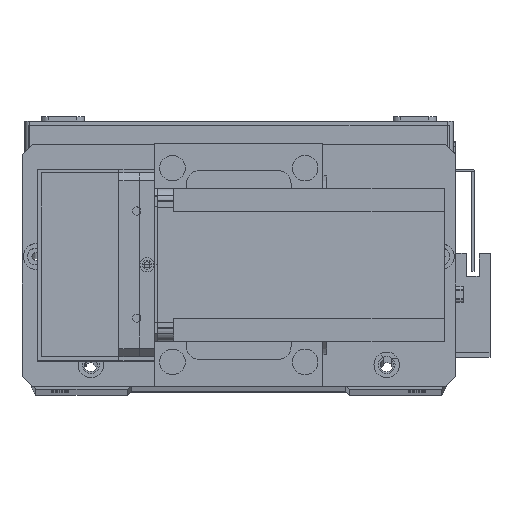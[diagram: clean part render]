
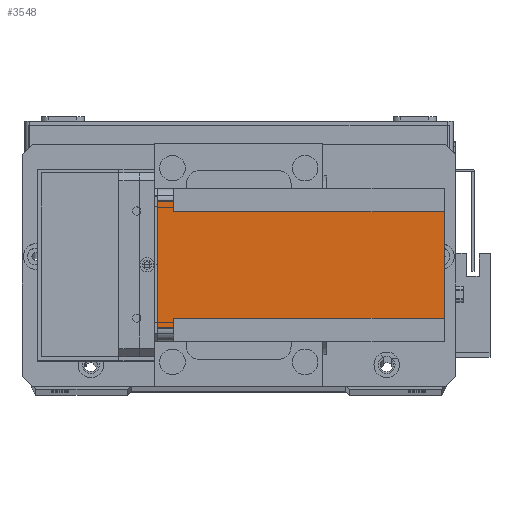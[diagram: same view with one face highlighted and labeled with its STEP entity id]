
A CAD part, top view. The second image highlights one B-rep face of the part: STEP entity #3548.
In plain terms, the highlighted planar face has unit normal (0, 0, 1) as drawn and (-1, 0, 0) by its records, which use the part's own axes.
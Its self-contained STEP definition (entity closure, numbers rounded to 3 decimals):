
#419 = VERTEX_POINT ( 'NONE', #9115 ) ;
#550 = EDGE_CURVE ( 'NONE', #18551, #19469, #27797, .T. ) ;
#590 = LINE ( 'NONE', #28616, #13878 ) ;
#2037 = DIRECTION ( 'NONE',  ( -1., 0., 0. ) ) ;
#2389 = VECTOR ( 'NONE', #31801, 1000. ) ;
#2557 = CARTESIAN_POINT ( 'NONE',  ( 0., 5., 0. ) ) ;
#2616 = VERTEX_POINT ( 'NONE', #22848 ) ;
#3138 = EDGE_CURVE ( 'NONE', #419, #19469, #9609, .T. ) ;
#3211 = VERTEX_POINT ( 'NONE', #25212 ) ;
#3548 = ADVANCED_FACE ( 'NONE', ( #5290 ), #6945, .T. ) ;
#4253 = EDGE_LOOP ( 'NONE', ( #16872, #21823, #15838, #29921, #21053, #5664, #26636, #10445 ) ) ;
#5130 = VERTEX_POINT ( 'NONE', #19239 ) ;
#5290 = FACE_OUTER_BOUND ( 'NONE', #4253, .T. ) ;
#5664 = ORIENTED_EDGE ( 'NONE', *, *, #10490, .F. ) ;
#6945 = PLANE ( 'NONE',  #7135 ) ;
#7135 = AXIS2_PLACEMENT_3D ( 'NONE', #21935, #2037, #19525 ) ;
#8114 = CARTESIAN_POINT ( 'NONE',  ( 0., 9., -112.5 ) ) ;
#8129 = CARTESIAN_POINT ( 'NONE',  ( 0., 60., -6.5 ) ) ;
#9044 = LINE ( 'NONE', #14318, #2389 ) ;
#9115 = CARTESIAN_POINT ( 'NONE',  ( 0., 5., -6.5 ) ) ;
#9181 = EDGE_CURVE ( 'NONE', #419, #21614, #9044, .T. ) ;
#9609 = LINE ( 'NONE', #27524, #22145 ) ;
#10445 = ORIENTED_EDGE ( 'NONE', *, *, #10775, .F. ) ;
#10490 = EDGE_CURVE ( 'NONE', #5130, #21014, #18756, .T. ) ;
#10775 = EDGE_CURVE ( 'NONE', #21614, #2616, #13261, .T. ) ;
#11125 = CARTESIAN_POINT ( 'NONE',  ( 0., 51., -6.5 ) ) ;
#11689 = VECTOR ( 'NONE', #23087, 1000. ) ;
#12089 = VECTOR ( 'NONE', #31623, 1000. ) ;
#12210 = DIRECTION ( 'NONE',  ( 0., -1., 0. ) ) ;
#12521 = DIRECTION ( 'NONE',  ( 0., 0., 1. ) ) ;
#13261 = LINE ( 'NONE', #8114, #11689 ) ;
#13878 = VECTOR ( 'NONE', #23669, 1000. ) ;
#14318 = CARTESIAN_POINT ( 'NONE',  ( 0., 0., -6.5 ) ) ;
#15838 = ORIENTED_EDGE ( 'NONE', *, *, #550, .F. ) ;
#16872 = ORIENTED_EDGE ( 'NONE', *, *, #9181, .F. ) ;
#17800 = LINE ( 'NONE', #8129, #30331 ) ;
#17841 = EDGE_CURVE ( 'NONE', #18551, #3211, #590, .T. ) ;
#18551 = VERTEX_POINT ( 'NONE', #26791 ) ;
#18756 = LINE ( 'NONE', #19162, #12089 ) ;
#18967 = DIRECTION ( 'NONE',  ( 0., -1., 0. ) ) ;
#19162 = CARTESIAN_POINT ( 'NONE',  ( 0., 51., -112.5 ) ) ;
#19239 = CARTESIAN_POINT ( 'NONE',  ( 0., 51., -112.5 ) ) ;
#19469 = VERTEX_POINT ( 'NONE', #2557 ) ;
#19525 = DIRECTION ( 'NONE',  ( 0., -1., 0. ) ) ;
#21014 = VERTEX_POINT ( 'NONE', #11125 ) ;
#21053 = ORIENTED_EDGE ( 'NONE', *, *, #29948, .F. ) ;
#21131 = VECTOR ( 'NONE', #18967, 1000. ) ;
#21614 = VERTEX_POINT ( 'NONE', #29044 ) ;
#21823 = ORIENTED_EDGE ( 'NONE', *, *, #3138, .T. ) ;
#21935 = CARTESIAN_POINT ( 'NONE',  ( 0., 0., -112.5 ) ) ;
#22145 = VECTOR ( 'NONE', #12521, 1000. ) ;
#22186 = CARTESIAN_POINT ( 'NONE',  ( 0., 0., -112.5 ) ) ;
#22848 = CARTESIAN_POINT ( 'NONE',  ( 0., 9., -112.5 ) ) ;
#23087 = DIRECTION ( 'NONE',  ( 0., 0., -1. ) ) ;
#23669 = DIRECTION ( 'NONE',  ( 0., 0., -1. ) ) ;
#23990 = CARTESIAN_POINT ( 'NONE',  ( 0., 0., 0. ) ) ;
#24876 = VECTOR ( 'NONE', #12210, 1000. ) ;
#25185 = EDGE_CURVE ( 'NONE', #5130, #2616, #25672, .T. ) ;
#25212 = CARTESIAN_POINT ( 'NONE',  ( 0., 55., -6.5 ) ) ;
#25672 = LINE ( 'NONE', #22186, #24876 ) ;
#26636 = ORIENTED_EDGE ( 'NONE', *, *, #25185, .T. ) ;
#26791 = CARTESIAN_POINT ( 'NONE',  ( 0., 55., 0. ) ) ;
#27524 = CARTESIAN_POINT ( 'NONE',  ( 0., 5., -112.5 ) ) ;
#27797 = LINE ( 'NONE', #23990, #21131 ) ;
#28616 = CARTESIAN_POINT ( 'NONE',  ( 0., 55., -112.5 ) ) ;
#29044 = CARTESIAN_POINT ( 'NONE',  ( 0., 9., -6.5 ) ) ;
#29921 = ORIENTED_EDGE ( 'NONE', *, *, #17841, .T. ) ;
#29948 = EDGE_CURVE ( 'NONE', #21014, #3211, #17800, .T. ) ;
#30331 = VECTOR ( 'NONE', #30646, 1000. ) ;
#30646 = DIRECTION ( 'NONE',  ( 0., 1., 0. ) ) ;
#31623 = DIRECTION ( 'NONE',  ( 0., 0., 1. ) ) ;
#31801 = DIRECTION ( 'NONE',  ( 0., 1., 0. ) ) ;
